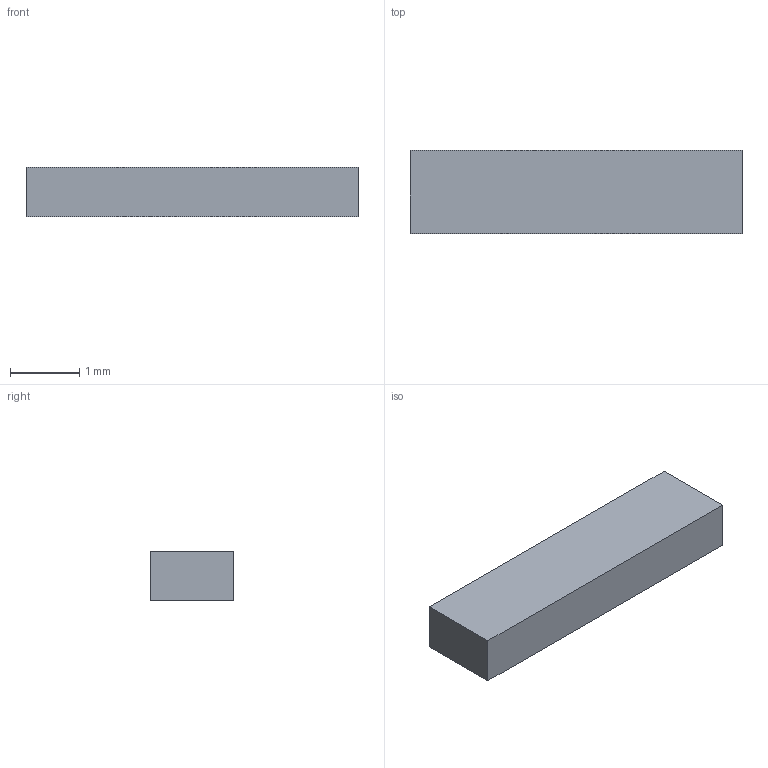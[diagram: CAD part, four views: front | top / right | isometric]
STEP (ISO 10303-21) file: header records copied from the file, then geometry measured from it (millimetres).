
FILE_DESCRIPTION(('Open CASCADE Model'),'2;1');
FILE_NAME('Open CASCADE Shape Model','2026-09-15T13:40:31',('Author'),( 'Open CASCADE'),'Open CASCADE STEP processor 7.7','Open CASCADE 7.7' ,'Unknown');
FILE_SCHEMA(('AUTOMOTIVE_DESIGN { 1 0 10303 214 1 1 1 1 }'));
Length unit declared in the file: millimetre
Products named in the file (1): SOLID
Bounding box: 4.8 x 1.2 x 0.71 mm (x, y, z)
Volume: 4.1 mm3; surface area: 20 mm2
Topology: 1 solids, 1 shells, 6 faces, 12 edges, 8 vertices
Faces by surface type: plane 6
Entity records: 322 total; most frequent: CARTESIAN_POINT 51, DIRECTION 50, LINE 36, VECTOR 36, ORIENTED_EDGE 24, PCURVE 24, DEFINITIONAL_REPRESENTATION 24, EDGE_CURVE 12
